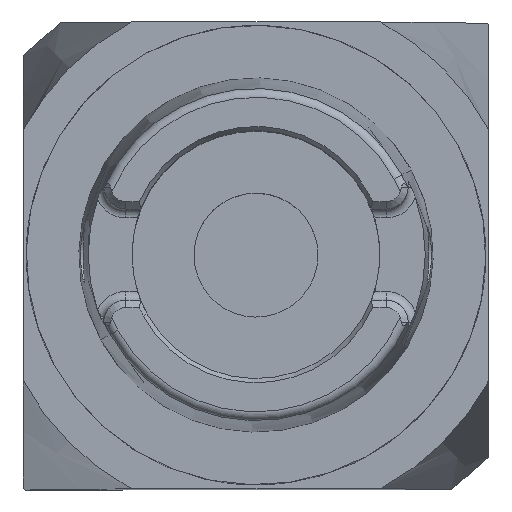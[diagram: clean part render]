
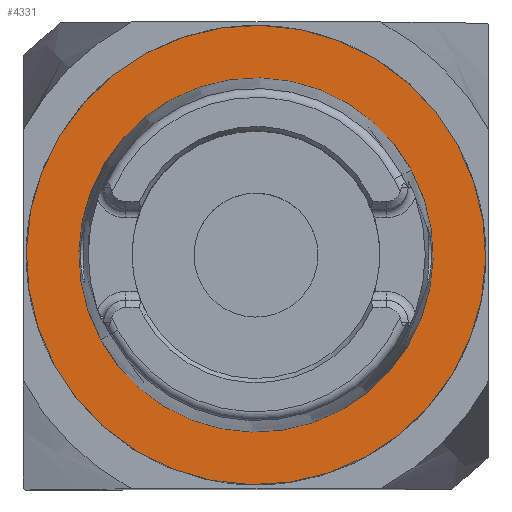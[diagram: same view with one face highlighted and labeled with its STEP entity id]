
A CAD part, top view. The second image highlights one B-rep face of the part: STEP entity #4331.
In plain terms, the highlighted planar face has unit normal (0, 0, 1).
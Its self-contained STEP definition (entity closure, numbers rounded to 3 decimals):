
#4259=AXIS2_PLACEMENT_3D('Circle Axis2P3D',#4257,#4258,$) ;
#4286=AXIS2_PLACEMENT_3D('Circle Axis2P3D',#4284,#4285,$) ;
#4307=AXIS2_PLACEMENT_3D('Plane Axis2P3D',#4304,#4305,#4306) ;
#4315=AXIS2_PLACEMENT_3D('Circle Axis2P3D',#4313,#4314,$) ;
#4324=AXIS2_PLACEMENT_3D('Circle Axis2P3D',#4322,#4323,$) ;
#4254=CARTESIAN_POINT('Vertex',(-27.644,-15.102,0.)) ;
#4257=CARTESIAN_POINT('Axis2P3D Location',(0.,0.,0.)) ;
#4261=CARTESIAN_POINT('Vertex',(27.644,15.102,0.)) ;
#4284=CARTESIAN_POINT('Axis2P3D Location',(0.,0.,0.)) ;
#4304=CARTESIAN_POINT('Axis2P3D Location',(24.215,0.,0.)) ;
#4313=CARTESIAN_POINT('Axis2P3D Location',(0.,0.,0.)) ;
#4317=CARTESIAN_POINT('Vertex',(21.251,11.609,0.)) ;
#4319=CARTESIAN_POINT('Vertex',(-21.251,-11.609,0.)) ;
#4322=CARTESIAN_POINT('Axis2P3D Location',(0.,0.,0.)) ;
#4258=DIRECTION('Axis2P3D Direction',(0.,0.,1.)) ;
#4285=DIRECTION('Axis2P3D Direction',(0.,0.,1.)) ;
#4305=DIRECTION('Axis2P3D Direction',(0.,0.,1.)) ;
#4306=DIRECTION('Axis2P3D XDirection',(1.,0.,0.)) ;
#4314=DIRECTION('Axis2P3D Direction',(0.,0.,1.)) ;
#4323=DIRECTION('Axis2P3D Direction',(0.,0.,1.)) ;
#4310=ORIENTED_EDGE('',*,*,#4288,.T.) ;
#4311=ORIENTED_EDGE('',*,*,#4263,.T.) ;
#4328=ORIENTED_EDGE('',*,*,#4321,.F.) ;
#4329=ORIENTED_EDGE('',*,*,#4326,.F.) ;
#4330=FACE_BOUND('',#4327,.T.) ;
#4331=ADVANCED_FACE('NOCUT',(#4312,#4330),#4308,.T.) ;
#4260=CIRCLE('generated circle',#4259,31.5) ;
#4287=CIRCLE('generated circle',#4286,31.5) ;
#4316=CIRCLE('generated circle',#4315,24.215) ;
#4325=CIRCLE('generated circle',#4324,24.215) ;
#4263=EDGE_CURVE('',#4262,#4255,#4260,.T.) ;
#4288=EDGE_CURVE('',#4255,#4262,#4287,.T.) ;
#4321=EDGE_CURVE('',#4318,#4320,#4316,.T.) ;
#4326=EDGE_CURVE('',#4320,#4318,#4325,.T.) ;
#4309=EDGE_LOOP('',(#4310,#4311)) ;
#4327=EDGE_LOOP('',(#4328,#4329)) ;
#4312=FACE_OUTER_BOUND('',#4309,.T.) ;
#4308=PLANE('',#4307) ;
#4255=VERTEX_POINT('',#4254) ;
#4262=VERTEX_POINT('',#4261) ;
#4318=VERTEX_POINT('',#4317) ;
#4320=VERTEX_POINT('',#4319) ;
